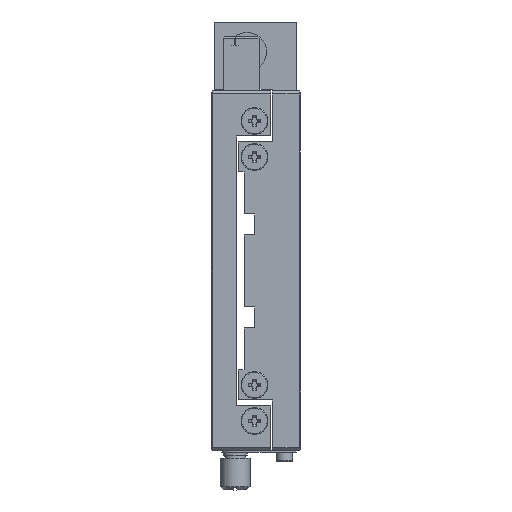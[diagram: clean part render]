
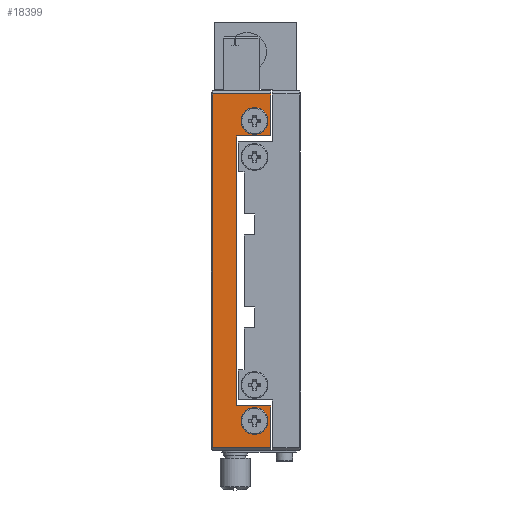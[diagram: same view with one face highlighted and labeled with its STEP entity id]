
A CAD part, left-side view. The second image highlights one B-rep face of the part: STEP entity #18399.
In plain terms, the highlighted planar face has unit normal (-1, 0, 0) as drawn and (0, 0, -1) by its records, which use the part's own axes.
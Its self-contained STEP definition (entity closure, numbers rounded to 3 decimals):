
#2557 =( BOUNDED_CURVE ( )  B_SPLINE_CURVE ( 3, ( #11939, #11946, #11950, #11951 ),
 .UNSPECIFIED., .F., .T. ) 
 B_SPLINE_CURVE_WITH_KNOTS ( ( 4, 4 ),
 ( 0.5, 1. ),
 .UNSPECIFIED. ) 
 CURVE ( )  GEOMETRIC_REPRESENTATION_ITEM ( )  RATIONAL_B_SPLINE_CURVE ( ( 1., 0.333, 0.333, 1. ) ) 
 REPRESENTATION_ITEM ( '' )  );
#3531 = EDGE_CURVE ( 'NONE', #16275, #16272, #2557, .T. ) ;
#6981 = EDGE_CURVE ( 'NONE', #16274, #16438, #16190, .T. ) ;
#10303 = VECTOR ( 'NONE', #16871, 1000. ) ;
#10317 = VECTOR ( 'NONE', #16864, 1000. ) ;
#10318 = VECTOR ( 'NONE', #16868, 1000. ) ;
#10319 = VECTOR ( 'NONE', #16874, 1000. ) ;
#10320 = VECTOR ( 'NONE', #16876, 1000. ) ;
#10321 = VECTOR ( 'NONE', #16878, 1000. ) ;
#10766 = AXIS2_PLACEMENT_3D ( 'NONE', #22394, #22383, #22400 ) ;
#11939 = CARTESIAN_POINT ( 'NONE',  ( -86.826, 35.182, -60. ) ) ;
#11946 = CARTESIAN_POINT ( 'NONE',  ( -86.826, 26.782, -60. ) ) ;
#11950 = CARTESIAN_POINT ( 'NONE',  ( -95.226, 26.782, -60. ) ) ;
#11951 = CARTESIAN_POINT ( 'NONE',  ( -95.226, 35.182, -60. ) ) ;
#12909 = CARTESIAN_POINT ( 'NONE',  ( 13.174, 35.182, -60. ) ) ;
#12910 = CARTESIAN_POINT ( 'NONE',  ( 13.174, 26.782, -60. ) ) ;
#12914 = CARTESIAN_POINT ( 'NONE',  ( 4.774, 26.782, -60. ) ) ;
#12915 = CARTESIAN_POINT ( 'NONE',  ( 4.774, 35.182, -60. ) ) ;
#14016 = EDGE_CURVE ( 'NONE', #16222, #16228, #16862, .T. ) ;
#14017 = EDGE_CURVE ( 'NONE', #16220, #16228, #16865, .T. ) ;
#14018 = EDGE_CURVE ( 'NONE', #16220, #23196, #16845, .T. ) ;
#14019 = EDGE_CURVE ( 'NONE', #23196, #23078, #16849, .T. ) ;
#14020 = EDGE_CURVE ( 'NONE', #23078, #23079, #16866, .T. ) ;
#14021 = EDGE_CURVE ( 'NONE', #16413, #23079, #16870, .T. ) ;
#14022 = EDGE_CURVE ( 'NONE', #16272, #16275, #20935, .T. ) ;
#14023 = EDGE_CURVE ( 'NONE', #16438, #16274, #20936, .T. ) ;
#14537 = CARTESIAN_POINT ( 'NONE',  ( 17.974, 29.682, -60. ) ) ;
#14538 = CARTESIAN_POINT ( 'NONE',  ( 17.974, 49.182, -60. ) ) ;
#14549 = CARTESIAN_POINT ( 'NONE',  ( -100.026, 29.682, -60. ) ) ;
#14655 = CARTESIAN_POINT ( 'NONE',  ( 3.974, 29.682, -60. ) ) ;
#16190 =( BOUNDED_CURVE ( )  B_SPLINE_CURVE ( 3, ( #12909, #12910, #12914, #12915 ),
 .UNSPECIFIED., .F., .T. ) 
 B_SPLINE_CURVE_WITH_KNOTS ( ( 4, 4 ),
 ( 0.5, 1. ),
 .UNSPECIFIED. ) 
 CURVE ( )  GEOMETRIC_REPRESENTATION_ITEM ( )  RATIONAL_B_SPLINE_CURVE ( ( 1., 0.333, 0.333, 1. ) ) 
 REPRESENTATION_ITEM ( '' )  );
#16220 = VERTEX_POINT ( 'NONE', #17502 ) ;
#16222 = VERTEX_POINT ( 'NONE', #17503 ) ;
#16228 = VERTEX_POINT ( 'NONE', #17509 ) ;
#16272 = VERTEX_POINT ( 'NONE', #17553 ) ;
#16274 = VERTEX_POINT ( 'NONE', #17555 ) ;
#16275 = VERTEX_POINT ( 'NONE', #17556 ) ;
#16413 = VERTEX_POINT ( 'NONE', #17694 ) ;
#16438 = VERTEX_POINT ( 'NONE', #17719 ) ;
#16845 = LINE ( 'NONE', #16869, #10303 ) ;
#16849 = LINE ( 'NONE', #16872, #10319 ) ;
#16862 = LINE ( 'NONE', #16863, #10317 ) ;
#16863 = CARTESIAN_POINT ( 'NONE',  ( -86.026, 49.682, -60. ) ) ;
#16864 = DIRECTION ( 'NONE',  ( 0., 1., 0. ) ) ;
#16865 = LINE ( 'NONE', #16867, #10318 ) ;
#16866 = LINE ( 'NONE', #16875, #10320 ) ;
#16867 = CARTESIAN_POINT ( 'NONE',  ( -86.026, 41.182, -60. ) ) ;
#16868 = DIRECTION ( 'NONE',  ( -1., 0., 0. ) ) ;
#16869 = CARTESIAN_POINT ( 'NONE',  ( 3.974, 49.682, -60. ) ) ;
#16870 = LINE ( 'NONE', #16877, #10321 ) ;
#16871 = DIRECTION ( 'NONE',  ( 0., -1., 0. ) ) ;
#16872 = CARTESIAN_POINT ( 'NONE',  ( -101.026, 29.682, -60. ) ) ;
#16873 = CARTESIAN_POINT ( 'NONE',  ( -95.226, 35.182, -60. ) ) ;
#16874 = DIRECTION ( 'NONE',  ( 1., 0., 0. ) ) ;
#16875 = CARTESIAN_POINT ( 'NONE',  ( 17.974, 49.682, -60. ) ) ;
#16876 = DIRECTION ( 'NONE',  ( 0., 1., 0. ) ) ;
#16877 = CARTESIAN_POINT ( 'NONE',  ( 18.974, 49.182, -60. ) ) ;
#16878 = DIRECTION ( 'NONE',  ( 1., 0., 0. ) ) ;
#16879 = CARTESIAN_POINT ( 'NONE',  ( 4.774, 35.182, -60. ) ) ;
#16880 = CARTESIAN_POINT ( 'NONE',  ( -95.226, 43.582, -60. ) ) ;
#16881 = CARTESIAN_POINT ( 'NONE',  ( -86.826, 43.582, -60. ) ) ;
#16882 = CARTESIAN_POINT ( 'NONE',  ( -86.826, 35.182, -60. ) ) ;
#16885 = CARTESIAN_POINT ( 'NONE',  ( 4.774, 43.582, -60. ) ) ;
#16886 = CARTESIAN_POINT ( 'NONE',  ( 13.174, 43.582, -60. ) ) ;
#16887 = CARTESIAN_POINT ( 'NONE',  ( 13.174, 35.182, -60. ) ) ;
#17502 = CARTESIAN_POINT ( 'NONE',  ( 3.974, 41.182, -60. ) ) ;
#17503 = CARTESIAN_POINT ( 'NONE',  ( -86.026, 29.682, -60. ) ) ;
#17509 = CARTESIAN_POINT ( 'NONE',  ( -86.026, 41.182, -60. ) ) ;
#17553 = CARTESIAN_POINT ( 'NONE',  ( -95.226, 35.182, -60. ) ) ;
#17555 = CARTESIAN_POINT ( 'NONE',  ( 13.174, 35.182, -60. ) ) ;
#17556 = CARTESIAN_POINT ( 'NONE',  ( -86.826, 35.182, -60. ) ) ;
#17694 = CARTESIAN_POINT ( 'NONE',  ( -100.026, 49.182, -60. ) ) ;
#17719 = CARTESIAN_POINT ( 'NONE',  ( 4.774, 35.182, -60. ) ) ;
#17748 = VECTOR ( 'NONE', #22546, 1000. ) ;
#17756 = VECTOR ( 'NONE', #22553, 1000. ) ;
#18399 = ADVANCED_FACE ( 'NONE', ( #22395, #22391, #22397 ), #22398, .F. ) ;
#18437 = EDGE_CURVE ( 'NONE', #23090, #16222, #22526, .T. ) ;
#18439 = EDGE_CURVE ( 'NONE', #16413, #23090, #22550, .T. ) ;
#19729 = EDGE_LOOP ( 'NONE', ( #24904, #24903 ) ) ;
#19732 = EDGE_LOOP ( 'NONE', ( #24900, #24899, #24898, #24897, #24896, #24895, #24894, #24893 ) ) ;
#19733 = EDGE_LOOP ( 'NONE', ( #24902, #24901 ) ) ;
#20935 =( BOUNDED_CURVE ( )  B_SPLINE_CURVE ( 3, ( #16873, #16880, #16881, #16882 ),
 .UNSPECIFIED., .F., .T. ) 
 B_SPLINE_CURVE_WITH_KNOTS ( ( 4, 4 ),
 ( 0., 0.5 ),
 .UNSPECIFIED. ) 
 CURVE ( )  GEOMETRIC_REPRESENTATION_ITEM ( )  RATIONAL_B_SPLINE_CURVE ( ( 1., 0.333, 0.333, 1. ) ) 
 REPRESENTATION_ITEM ( '' )  );
#20936 =( BOUNDED_CURVE ( )  B_SPLINE_CURVE ( 3, ( #16879, #16885, #16886, #16887 ),
 .UNSPECIFIED., .F., .T. ) 
 B_SPLINE_CURVE_WITH_KNOTS ( ( 4, 4 ),
 ( 0., 0.5 ),
 .UNSPECIFIED. ) 
 CURVE ( )  GEOMETRIC_REPRESENTATION_ITEM ( )  RATIONAL_B_SPLINE_CURVE ( ( 1., 0.333, 0.333, 1. ) ) 
 REPRESENTATION_ITEM ( '' )  );
#22383 = DIRECTION ( 'NONE',  ( 0., 0., 1. ) ) ;
#22391 = FACE_BOUND ( 'NONE', #19733, .T. ) ;
#22394 = CARTESIAN_POINT ( 'NONE',  ( -101.026, 49.682, -60. ) ) ;
#22395 = FACE_BOUND ( 'NONE', #19729, .T. ) ;
#22397 = FACE_OUTER_BOUND ( 'NONE', #19732, .T. ) ;
#22398 = PLANE ( 'NONE',  #10766 ) ;
#22400 = DIRECTION ( 'NONE',  ( 0., -1., 0. ) ) ;
#22526 = LINE ( 'NONE', #22545, #17748 ) ;
#22545 = CARTESIAN_POINT ( 'NONE',  ( -101.026, 29.682, -60. ) ) ;
#22546 = DIRECTION ( 'NONE',  ( 1., 0., 0. ) ) ;
#22550 = LINE ( 'NONE', #22552, #17756 ) ;
#22552 = CARTESIAN_POINT ( 'NONE',  ( -100.026, 49.682, -60. ) ) ;
#22553 = DIRECTION ( 'NONE',  ( 0., -1., 0. ) ) ;
#23078 = VERTEX_POINT ( 'NONE', #14537 ) ;
#23079 = VERTEX_POINT ( 'NONE', #14538 ) ;
#23090 = VERTEX_POINT ( 'NONE', #14549 ) ;
#23196 = VERTEX_POINT ( 'NONE', #14655 ) ;
#24893 = ORIENTED_EDGE ( 'NONE', *, *, #18439, .F. ) ;
#24894 = ORIENTED_EDGE ( 'NONE', *, *, #18437, .F. ) ;
#24895 = ORIENTED_EDGE ( 'NONE', *, *, #14016, .F. ) ;
#24896 = ORIENTED_EDGE ( 'NONE', *, *, #14017, .T. ) ;
#24897 = ORIENTED_EDGE ( 'NONE', *, *, #14018, .F. ) ;
#24898 = ORIENTED_EDGE ( 'NONE', *, *, #14019, .F. ) ;
#24899 = ORIENTED_EDGE ( 'NONE', *, *, #14020, .F. ) ;
#24900 = ORIENTED_EDGE ( 'NONE', *, *, #14021, .T. ) ;
#24901 = ORIENTED_EDGE ( 'NONE', *, *, #3531, .F. ) ;
#24902 = ORIENTED_EDGE ( 'NONE', *, *, #14022, .F. ) ;
#24903 = ORIENTED_EDGE ( 'NONE', *, *, #6981, .F. ) ;
#24904 = ORIENTED_EDGE ( 'NONE', *, *, #14023, .F. ) ;
